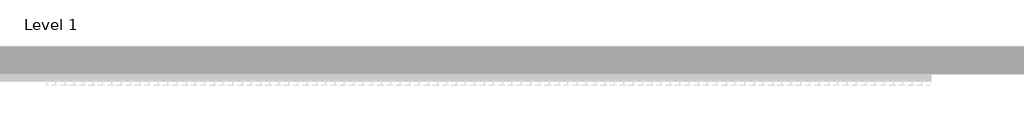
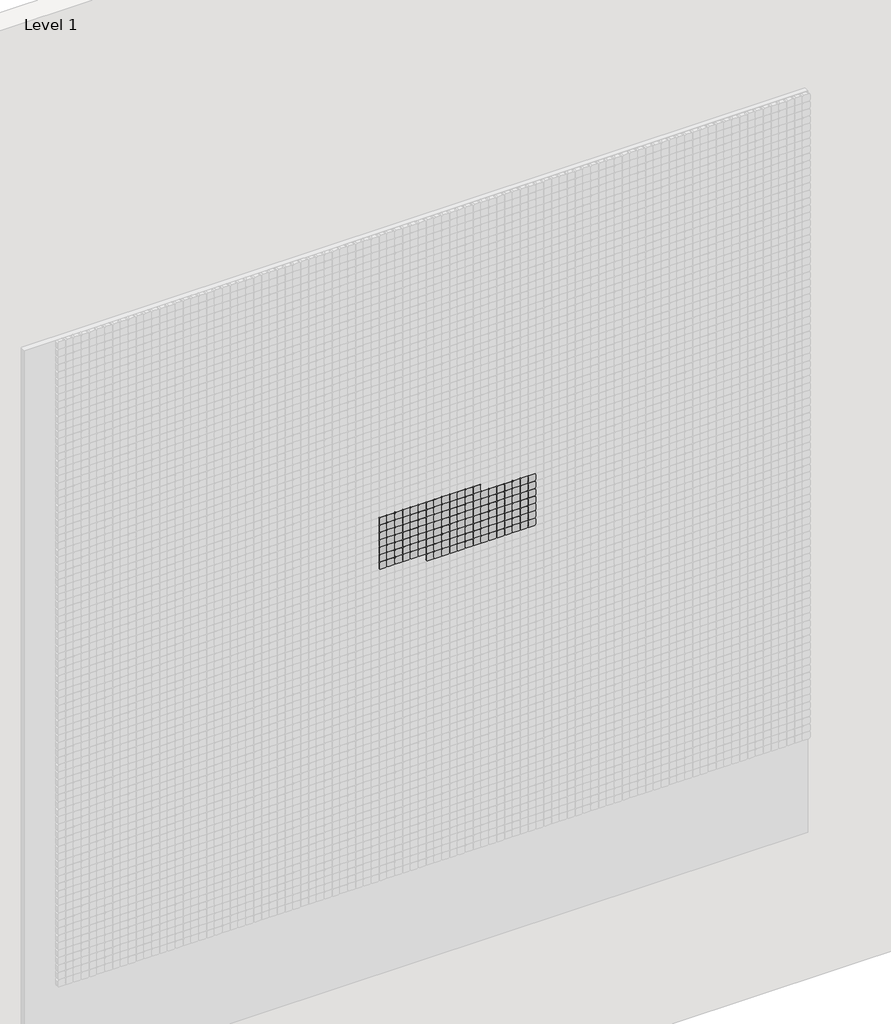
# One storey, part 40 of 71: 147 proxies.
"""IFC4 building model written with IfcOpenShell, lengths in millimetres."""

from ifc_helpers import new_model, si_unit, origin, place, context, project, spatial, transform, mapped, element, save
from components import generic_models_afde289c

model = new_model("IFC4")

# Units and contexts
model_context = context("Model", 3, world=origin())
ifc_project = project(units=[si_unit("LENGTHUNIT", "METRE", prefix="MILLI")], contexts=[model_context])

# Site, building, storey
site = spatial("IfcSite", under=ifc_project)
building = spatial("IfcBuilding", under=site)
storey = spatial("IfcBuildingStorey", under=building, Name="Level 1", Elevation=0.0)

# Proxies
placement = place(None, origin())
generic_models_shape = generic_models_afde289c(model_context)
element("IfcBuildingElementProxy", 1, Name="Pixel_M : Pixel_M", ObjectType="Pixel_M : Pixel_M", at=placement, inside=storey, context=model_context, shape_type="MappedRepresentation", body=[
    mapped(generic_models_shape, transform((7612.4280941, -75.0, 4066.3566215), x_axis=(1.0, 0.0, 0.0), y_axis=(0.0, 0.0, 1.0), z_axis=(0.0, -1.0, 0.0))),
])
element("IfcBuildingElementProxy", 2, Name="Pixel_M : Pixel_M", ObjectType="Pixel_M : Pixel_M", at=placement, inside=storey, context=model_context, shape_type="MappedRepresentation", body=[
    mapped(generic_models_shape, transform((7562.4280941, -75.0, 4066.3566215), x_axis=(1.0, 0.0, 0.0), y_axis=(0.0, 0.0, 1.0), z_axis=(0.0, -1.0, 0.0))),
])
element("IfcBuildingElementProxy", 3, Name="Pixel_M : Pixel_M", ObjectType="Pixel_M : Pixel_M", at=placement, inside=storey, context=model_context, shape_type="MappedRepresentation", body=[
    mapped(generic_models_shape, transform((7512.4280941, -75.0, 4066.3566215), x_axis=(1.0, 0.0, 0.0), y_axis=(0.0, 0.0, 1.0), z_axis=(0.0, -1.0, 0.0))),
])
element("IfcBuildingElementProxy", 4, Name="Pixel_M : Pixel_M", ObjectType="Pixel_M : Pixel_M", at=placement, inside=storey, context=model_context, shape_type="MappedRepresentation", body=[
    mapped(generic_models_shape, transform((7462.4280941, -75.0, 4066.3566215), x_axis=(1.0, 0.0, 0.0), y_axis=(0.0, 0.0, 1.0), z_axis=(0.0, -1.0, 0.0))),
])
element("IfcBuildingElementProxy", 5, Name="Pixel_M : Pixel_M", ObjectType="Pixel_M : Pixel_M", at=placement, inside=storey, context=model_context, shape_type="MappedRepresentation", body=[
    mapped(generic_models_shape, transform((7412.4280941, -75.0, 4066.3566215), x_axis=(1.0, 0.0, 0.0), y_axis=(0.0, 0.0, 1.0), z_axis=(0.0, -1.0, 0.0))),
])
element("IfcBuildingElementProxy", 6, Name="Pixel_M : Pixel_M", ObjectType="Pixel_M : Pixel_M", at=placement, inside=storey, context=model_context, shape_type="MappedRepresentation", body=[
    mapped(generic_models_shape, transform((7362.4280941, -75.0, 4066.3566215), x_axis=(1.0, 0.0, 0.0), y_axis=(0.0, 0.0, 1.0), z_axis=(0.0, -1.0, 0.0))),
])
element("IfcBuildingElementProxy", 7, Name="Pixel_M : Pixel_M", ObjectType="Pixel_M : Pixel_M", at=placement, inside=storey, context=model_context, shape_type="MappedRepresentation", body=[
    mapped(generic_models_shape, transform((7312.4280941, -75.0, 4066.3566215), x_axis=(1.0, 0.0, 0.0), y_axis=(0.0, 0.0, 1.0), z_axis=(0.0, -1.0, 0.0))),
])
element("IfcBuildingElementProxy", 8, Name="Pixel_M : Pixel_M", ObjectType="Pixel_M : Pixel_M", at=placement, inside=storey, context=model_context, shape_type="MappedRepresentation", body=[
    mapped(generic_models_shape, transform((7262.4280941, -75.0, 4066.3566215), x_axis=(1.0, 0.0, 0.0), y_axis=(0.0, 0.0, 1.0), z_axis=(0.0, -1.0, 0.0))),
])
element("IfcBuildingElementProxy", 9, Name="Pixel_M : Pixel_M", ObjectType="Pixel_M : Pixel_M", at=placement, inside=storey, context=model_context, shape_type="MappedRepresentation", body=[
    mapped(generic_models_shape, transform((7212.4280941, -75.0, 4066.3566215), x_axis=(1.0, 0.0, 0.0), y_axis=(0.0, 0.0, 1.0), z_axis=(0.0, -1.0, 0.0))),
])
element("IfcBuildingElementProxy", 10, Name="Pixel_M : Pixel_M", ObjectType="Pixel_M : Pixel_M", at=placement, inside=storey, context=model_context, shape_type="MappedRepresentation", body=[
    mapped(generic_models_shape, transform((7162.4280941, -75.0, 4066.3566215), x_axis=(1.0, 0.0, 0.0), y_axis=(0.0, 0.0, 1.0), z_axis=(0.0, -1.0, 0.0))),
])
element("IfcBuildingElementProxy", 11, Name="Pixel_M : Pixel_M", ObjectType="Pixel_M : Pixel_M", at=placement, inside=storey, context=model_context, shape_type="MappedRepresentation", body=[
    mapped(generic_models_shape, transform((7112.4280941, -75.0, 4066.3566215), x_axis=(1.0, 0.0, 0.0), y_axis=(0.0, 0.0, 1.0), z_axis=(0.0, -1.0, 0.0))),
])
element("IfcBuildingElementProxy", 12, Name="Pixel_M : Pixel_M", ObjectType="Pixel_M : Pixel_M", at=placement, inside=storey, context=model_context, shape_type="MappedRepresentation", body=[
    mapped(generic_models_shape, transform((7062.4280941, -75.0, 4066.3566215), x_axis=(1.0, 0.0, 0.0), y_axis=(0.0, 0.0, 1.0), z_axis=(0.0, -1.0, 0.0))),
])
element("IfcBuildingElementProxy", 13, Name="Pixel_M : Pixel_M", ObjectType="Pixel_M : Pixel_M", at=placement, inside=storey, context=model_context, shape_type="MappedRepresentation", body=[
    mapped(generic_models_shape, transform((7012.4280941, -75.0, 4066.3566215), x_axis=(1.0, 0.0, 0.0), y_axis=(0.0, 0.0, 1.0), z_axis=(0.0, -1.0, 0.0))),
])
element("IfcBuildingElementProxy", 14, Name="Pixel_M : Pixel_M", ObjectType="Pixel_M : Pixel_M", at=placement, inside=storey, context=model_context, shape_type="MappedRepresentation", body=[
    mapped(generic_models_shape, transform((7962.4280941, -75.0, 4016.3566215), x_axis=(1.0, 0.0, 0.0), y_axis=(0.0, 0.0, 1.0), z_axis=(0.0, -1.0, 0.0))),
])
element("IfcBuildingElementProxy", 15, Name="Pixel_M : Pixel_M", ObjectType="Pixel_M : Pixel_M", at=placement, inside=storey, context=model_context, shape_type="MappedRepresentation", body=[
    mapped(generic_models_shape, transform((7912.4280941, -75.0, 4016.3566215), x_axis=(1.0, 0.0, 0.0), y_axis=(0.0, 0.0, 1.0), z_axis=(0.0, -1.0, 0.0))),
])
element("IfcBuildingElementProxy", 16, Name="Pixel_M : Pixel_M", ObjectType="Pixel_M : Pixel_M", at=placement, inside=storey, context=model_context, shape_type="MappedRepresentation", body=[
    mapped(generic_models_shape, transform((7862.4280941, -75.0, 4016.3566215), x_axis=(1.0, 0.0, 0.0), y_axis=(0.0, 0.0, 1.0), z_axis=(0.0, -1.0, 0.0))),
])
element("IfcBuildingElementProxy", 17, Name="Pixel_M : Pixel_M", ObjectType="Pixel_M : Pixel_M", at=placement, inside=storey, context=model_context, shape_type="MappedRepresentation", body=[
    mapped(generic_models_shape, transform((7812.4280941, -75.0, 4016.3566215), x_axis=(1.0, 0.0, 0.0), y_axis=(0.0, 0.0, 1.0), z_axis=(0.0, -1.0, 0.0))),
])
element("IfcBuildingElementProxy", 18, Name="Pixel_M : Pixel_M", ObjectType="Pixel_M : Pixel_M", at=placement, inside=storey, context=model_context, shape_type="MappedRepresentation", body=[
    mapped(generic_models_shape, transform((7762.4280941, -75.0, 4016.3566215), x_axis=(1.0, 0.0, 0.0), y_axis=(0.0, 0.0, 1.0), z_axis=(0.0, -1.0, 0.0))),
])
element("IfcBuildingElementProxy", 19, Name="Pixel_M : Pixel_M", ObjectType="Pixel_M : Pixel_M", at=placement, inside=storey, context=model_context, shape_type="MappedRepresentation", body=[
    mapped(generic_models_shape, transform((7712.4280941, -75.0, 4016.3566215), x_axis=(1.0, 0.0, 0.0), y_axis=(0.0, 0.0, 1.0), z_axis=(0.0, -1.0, 0.0))),
])
element("IfcBuildingElementProxy", 20, Name="Pixel_M : Pixel_M", ObjectType="Pixel_M : Pixel_M", at=placement, inside=storey, context=model_context, shape_type="MappedRepresentation", body=[
    mapped(generic_models_shape, transform((7662.4280941, -75.0, 4016.3566215), x_axis=(1.0, 0.0, 0.0), y_axis=(0.0, 0.0, 1.0), z_axis=(0.0, -1.0, 0.0))),
])
element("IfcBuildingElementProxy", 21, Name="Pixel_M : Pixel_M", ObjectType="Pixel_M : Pixel_M", at=placement, inside=storey, context=model_context, shape_type="MappedRepresentation", body=[
    mapped(generic_models_shape, transform((7612.4280941, -75.0, 4016.3566215), x_axis=(1.0, 0.0, 0.0), y_axis=(0.0, 0.0, 1.0), z_axis=(0.0, -1.0, 0.0))),
])
element("IfcBuildingElementProxy", 22, Name="Pixel_M : Pixel_M", ObjectType="Pixel_M : Pixel_M", at=placement, inside=storey, context=model_context, shape_type="MappedRepresentation", body=[
    mapped(generic_models_shape, transform((7562.4280941, -75.0, 4016.3566215), x_axis=(1.0, 0.0, 0.0), y_axis=(0.0, 0.0, 1.0), z_axis=(0.0, -1.0, 0.0))),
])
element("IfcBuildingElementProxy", 23, Name="Pixel_M : Pixel_M", ObjectType="Pixel_M : Pixel_M", at=placement, inside=storey, context=model_context, shape_type="MappedRepresentation", body=[
    mapped(generic_models_shape, transform((7512.4280941, -75.0, 4016.3566215), x_axis=(1.0, 0.0, 0.0), y_axis=(0.0, 0.0, 1.0), z_axis=(0.0, -1.0, 0.0))),
])
element("IfcBuildingElementProxy", 24, Name="Pixel_M : Pixel_M", ObjectType="Pixel_M : Pixel_M", at=placement, inside=storey, context=model_context, shape_type="MappedRepresentation", body=[
    mapped(generic_models_shape, transform((7462.4280941, -75.0, 4016.3566215), x_axis=(1.0, 0.0, 0.0), y_axis=(0.0, 0.0, 1.0), z_axis=(0.0, -1.0, 0.0))),
])
element("IfcBuildingElementProxy", 25, Name="Pixel_M : Pixel_M", ObjectType="Pixel_M : Pixel_M", at=placement, inside=storey, context=model_context, shape_type="MappedRepresentation", body=[
    mapped(generic_models_shape, transform((7412.4280941, -75.0, 4016.3566215), x_axis=(1.0, 0.0, 0.0), y_axis=(0.0, 0.0, 1.0), z_axis=(0.0, -1.0, 0.0))),
])
element("IfcBuildingElementProxy", 26, Name="Pixel_M : Pixel_M", ObjectType="Pixel_M : Pixel_M", at=placement, inside=storey, context=model_context, shape_type="MappedRepresentation", body=[
    mapped(generic_models_shape, transform((7362.4280941, -75.0, 4016.3566215), x_axis=(1.0, 0.0, 0.0), y_axis=(0.0, 0.0, 1.0), z_axis=(0.0, -1.0, 0.0))),
])
element("IfcBuildingElementProxy", 27, Name="Pixel_M : Pixel_M", ObjectType="Pixel_M : Pixel_M", at=placement, inside=storey, context=model_context, shape_type="MappedRepresentation", body=[
    mapped(generic_models_shape, transform((7312.4280941, -75.0, 4016.3566215), x_axis=(1.0, 0.0, 0.0), y_axis=(0.0, 0.0, 1.0), z_axis=(0.0, -1.0, 0.0))),
])
element("IfcBuildingElementProxy", 28, Name="Pixel_M : Pixel_M", ObjectType="Pixel_M : Pixel_M", at=placement, inside=storey, context=model_context, shape_type="MappedRepresentation", body=[
    mapped(generic_models_shape, transform((7262.4280941, -75.0, 4016.3566215), x_axis=(1.0, 0.0, 0.0), y_axis=(0.0, 0.0, 1.0), z_axis=(0.0, -1.0, 0.0))),
])
element("IfcBuildingElementProxy", 29, Name="Pixel_M : Pixel_M", ObjectType="Pixel_M : Pixel_M", at=placement, inside=storey, context=model_context, shape_type="MappedRepresentation", body=[
    mapped(generic_models_shape, transform((7212.4280941, -75.0, 4016.3566215), x_axis=(1.0, 0.0, 0.0), y_axis=(0.0, 0.0, 1.0), z_axis=(0.0, -1.0, 0.0))),
])
element("IfcBuildingElementProxy", 30, Name="Pixel_M : Pixel_M", ObjectType="Pixel_M : Pixel_M", at=placement, inside=storey, context=model_context, shape_type="MappedRepresentation", body=[
    mapped(generic_models_shape, transform((7162.4280941, -75.0, 4016.3566215), x_axis=(1.0, 0.0, 0.0), y_axis=(0.0, 0.0, 1.0), z_axis=(0.0, -1.0, 0.0))),
])
element("IfcBuildingElementProxy", 31, Name="Pixel_M : Pixel_M", ObjectType="Pixel_M : Pixel_M", at=placement, inside=storey, context=model_context, shape_type="MappedRepresentation", body=[
    mapped(generic_models_shape, transform((7112.4280941, -75.0, 4016.3566215), x_axis=(1.0, 0.0, 0.0), y_axis=(0.0, 0.0, 1.0), z_axis=(0.0, -1.0, 0.0))),
])
element("IfcBuildingElementProxy", 32, Name="Pixel_M : Pixel_M", ObjectType="Pixel_M : Pixel_M", at=placement, inside=storey, context=model_context, shape_type="MappedRepresentation", body=[
    mapped(generic_models_shape, transform((7062.4280941, -75.0, 4016.3566215), x_axis=(1.0, 0.0, 0.0), y_axis=(0.0, 0.0, 1.0), z_axis=(0.0, -1.0, 0.0))),
])
element("IfcBuildingElementProxy", 33, Name="Pixel_M : Pixel_M", ObjectType="Pixel_M : Pixel_M", at=placement, inside=storey, context=model_context, shape_type="MappedRepresentation", body=[
    mapped(generic_models_shape, transform((7012.4280941, -75.0, 4016.3566215), x_axis=(1.0, 0.0, 0.0), y_axis=(0.0, 0.0, 1.0), z_axis=(0.0, -1.0, 0.0))),
])
element("IfcBuildingElementProxy", 34, Name="Pixel_M : Pixel_M", ObjectType="Pixel_M : Pixel_M", at=placement, inside=storey, context=model_context, shape_type="MappedRepresentation", body=[
    mapped(generic_models_shape, transform((7962.4280941, -75.0, 3966.3566215), x_axis=(1.0, 0.0, 0.0), y_axis=(0.0, 0.0, 1.0), z_axis=(0.0, -1.0, 0.0))),
])
element("IfcBuildingElementProxy", 35, Name="Pixel_M : Pixel_M", ObjectType="Pixel_M : Pixel_M", at=placement, inside=storey, context=model_context, shape_type="MappedRepresentation", body=[
    mapped(generic_models_shape, transform((7912.4280941, -75.0, 3966.3566215), x_axis=(1.0, 0.0, 0.0), y_axis=(0.0, 0.0, 1.0), z_axis=(0.0, -1.0, 0.0))),
])
element("IfcBuildingElementProxy", 36, Name="Pixel_M : Pixel_M", ObjectType="Pixel_M : Pixel_M", at=placement, inside=storey, context=model_context, shape_type="MappedRepresentation", body=[
    mapped(generic_models_shape, transform((7862.4280941, -75.0, 3966.3566215), x_axis=(1.0, 0.0, 0.0), y_axis=(0.0, 0.0, 1.0), z_axis=(0.0, -1.0, 0.0))),
])
element("IfcBuildingElementProxy", 37, Name="Pixel_M : Pixel_M", ObjectType="Pixel_M : Pixel_M", at=placement, inside=storey, context=model_context, shape_type="MappedRepresentation", body=[
    mapped(generic_models_shape, transform((7812.4280941, -75.0, 3966.3566215), x_axis=(1.0, 0.0, 0.0), y_axis=(0.0, 0.0, 1.0), z_axis=(0.0, -1.0, 0.0))),
])
element("IfcBuildingElementProxy", 38, Name="Pixel_M : Pixel_M", ObjectType="Pixel_M : Pixel_M", at=placement, inside=storey, context=model_context, shape_type="MappedRepresentation", body=[
    mapped(generic_models_shape, transform((7762.4280941, -75.0, 3966.3566215), x_axis=(1.0, 0.0, 0.0), y_axis=(0.0, 0.0, 1.0), z_axis=(0.0, -1.0, 0.0))),
])
element("IfcBuildingElementProxy", 39, Name="Pixel_M : Pixel_M", ObjectType="Pixel_M : Pixel_M", at=placement, inside=storey, context=model_context, shape_type="MappedRepresentation", body=[
    mapped(generic_models_shape, transform((7712.4280941, -75.0, 3966.3566215), x_axis=(1.0, 0.0, 0.0), y_axis=(0.0, 0.0, 1.0), z_axis=(0.0, -1.0, 0.0))),
])
element("IfcBuildingElementProxy", 40, Name="Pixel_M : Pixel_M", ObjectType="Pixel_M : Pixel_M", at=placement, inside=storey, context=model_context, shape_type="MappedRepresentation", body=[
    mapped(generic_models_shape, transform((7662.4280941, -75.0, 3966.3566215), x_axis=(1.0, 0.0, 0.0), y_axis=(0.0, 0.0, 1.0), z_axis=(0.0, -1.0, 0.0))),
])
element("IfcBuildingElementProxy", 41, Name="Pixel_M : Pixel_M", ObjectType="Pixel_M : Pixel_M", at=placement, inside=storey, context=model_context, shape_type="MappedRepresentation", body=[
    mapped(generic_models_shape, transform((7612.4280941, -75.0, 3966.3566215), x_axis=(1.0, 0.0, 0.0), y_axis=(0.0, 0.0, 1.0), z_axis=(0.0, -1.0, 0.0))),
])
element("IfcBuildingElementProxy", 42, Name="Pixel_M : Pixel_M", ObjectType="Pixel_M : Pixel_M", at=placement, inside=storey, context=model_context, shape_type="MappedRepresentation", body=[
    mapped(generic_models_shape, transform((7562.4280941, -75.0, 3966.3566215), x_axis=(1.0, 0.0, 0.0), y_axis=(0.0, 0.0, 1.0), z_axis=(0.0, -1.0, 0.0))),
])
element("IfcBuildingElementProxy", 43, Name="Pixel_M : Pixel_M", ObjectType="Pixel_M : Pixel_M", at=placement, inside=storey, context=model_context, shape_type="MappedRepresentation", body=[
    mapped(generic_models_shape, transform((7512.4280941, -75.0, 3966.3566215), x_axis=(1.0, 0.0, 0.0), y_axis=(0.0, 0.0, 1.0), z_axis=(0.0, -1.0, 0.0))),
])
element("IfcBuildingElementProxy", 44, Name="Pixel_M : Pixel_M", ObjectType="Pixel_M : Pixel_M", at=placement, inside=storey, context=model_context, shape_type="MappedRepresentation", body=[
    mapped(generic_models_shape, transform((7462.4280941, -75.0, 3966.3566215), x_axis=(1.0, 0.0, 0.0), y_axis=(0.0, 0.0, 1.0), z_axis=(0.0, -1.0, 0.0))),
])
element("IfcBuildingElementProxy", 45, Name="Pixel_M : Pixel_M", ObjectType="Pixel_M : Pixel_M", at=placement, inside=storey, context=model_context, shape_type="MappedRepresentation", body=[
    mapped(generic_models_shape, transform((7412.4280941, -75.0, 3966.3566215), x_axis=(1.0, 0.0, 0.0), y_axis=(0.0, 0.0, 1.0), z_axis=(0.0, -1.0, 0.0))),
])
element("IfcBuildingElementProxy", 46, Name="Pixel_M : Pixel_M", ObjectType="Pixel_M : Pixel_M", at=placement, inside=storey, context=model_context, shape_type="MappedRepresentation", body=[
    mapped(generic_models_shape, transform((7362.4280941, -75.0, 3966.3566215), x_axis=(1.0, 0.0, 0.0), y_axis=(0.0, 0.0, 1.0), z_axis=(0.0, -1.0, 0.0))),
])
element("IfcBuildingElementProxy", 47, Name="Pixel_M : Pixel_M", ObjectType="Pixel_M : Pixel_M", at=placement, inside=storey, context=model_context, shape_type="MappedRepresentation", body=[
    mapped(generic_models_shape, transform((7312.4280941, -75.0, 3966.3566215), x_axis=(1.0, 0.0, 0.0), y_axis=(0.0, 0.0, 1.0), z_axis=(0.0, -1.0, 0.0))),
])
element("IfcBuildingElementProxy", 48, Name="Pixel_M : Pixel_M", ObjectType="Pixel_M : Pixel_M", at=placement, inside=storey, context=model_context, shape_type="MappedRepresentation", body=[
    mapped(generic_models_shape, transform((7262.4280941, -75.0, 3966.3566215), x_axis=(1.0, 0.0, 0.0), y_axis=(0.0, 0.0, 1.0), z_axis=(0.0, -1.0, 0.0))),
])
element("IfcBuildingElementProxy", 49, Name="Pixel_M : Pixel_M", ObjectType="Pixel_M : Pixel_M", at=placement, inside=storey, context=model_context, shape_type="MappedRepresentation", body=[
    mapped(generic_models_shape, transform((7212.4280941, -75.0, 3966.3566215), x_axis=(1.0, 0.0, 0.0), y_axis=(0.0, 0.0, 1.0), z_axis=(0.0, -1.0, 0.0))),
])
element("IfcBuildingElementProxy", 50, Name="Pixel_M : Pixel_M", ObjectType="Pixel_M : Pixel_M", at=placement, inside=storey, context=model_context, shape_type="MappedRepresentation", body=[
    mapped(generic_models_shape, transform((7162.4280941, -75.0, 3966.3566215), x_axis=(1.0, 0.0, 0.0), y_axis=(0.0, 0.0, 1.0), z_axis=(0.0, -1.0, 0.0))),
])
element("IfcBuildingElementProxy", 51, Name="Pixel_M : Pixel_M", ObjectType="Pixel_M : Pixel_M", at=placement, inside=storey, context=model_context, shape_type="MappedRepresentation", body=[
    mapped(generic_models_shape, transform((7112.4280941, -75.0, 3966.3566215), x_axis=(1.0, 0.0, 0.0), y_axis=(0.0, 0.0, 1.0), z_axis=(0.0, -1.0, 0.0))),
])
element("IfcBuildingElementProxy", 52, Name="Pixel_M : Pixel_M", ObjectType="Pixel_M : Pixel_M", at=placement, inside=storey, context=model_context, shape_type="MappedRepresentation", body=[
    mapped(generic_models_shape, transform((7062.4280941, -75.0, 3966.3566215), x_axis=(1.0, 0.0, 0.0), y_axis=(0.0, 0.0, 1.0), z_axis=(0.0, -1.0, 0.0))),
])
element("IfcBuildingElementProxy", 53, Name="Pixel_M : Pixel_M", ObjectType="Pixel_M : Pixel_M", at=placement, inside=storey, context=model_context, shape_type="MappedRepresentation", body=[
    mapped(generic_models_shape, transform((7012.4280941, -75.0, 3966.3566215), x_axis=(1.0, 0.0, 0.0), y_axis=(0.0, 0.0, 1.0), z_axis=(0.0, -1.0, 0.0))),
])
element("IfcBuildingElementProxy", 54, Name="Pixel_M : Pixel_M", ObjectType="Pixel_M : Pixel_M", at=placement, inside=storey, context=model_context, shape_type="MappedRepresentation", body=[
    mapped(generic_models_shape, transform((7962.4280941, -75.0, 3916.3566215), x_axis=(1.0, 0.0, 0.0), y_axis=(0.0, 0.0, 1.0), z_axis=(0.0, -1.0, 0.0))),
])
element("IfcBuildingElementProxy", 55, Name="Pixel_M : Pixel_M", ObjectType="Pixel_M : Pixel_M", at=placement, inside=storey, context=model_context, shape_type="MappedRepresentation", body=[
    mapped(generic_models_shape, transform((7912.4280941, -75.0, 3916.3566215), x_axis=(1.0, 0.0, 0.0), y_axis=(0.0, 0.0, 1.0), z_axis=(0.0, -1.0, 0.0))),
])
element("IfcBuildingElementProxy", 56, Name="Pixel_M : Pixel_M", ObjectType="Pixel_M : Pixel_M", at=placement, inside=storey, context=model_context, shape_type="MappedRepresentation", body=[
    mapped(generic_models_shape, transform((7862.4280941, -75.0, 3916.3566215), x_axis=(1.0, 0.0, 0.0), y_axis=(0.0, 0.0, 1.0), z_axis=(0.0, -1.0, 0.0))),
])
element("IfcBuildingElementProxy", 57, Name="Pixel_M : Pixel_M", ObjectType="Pixel_M : Pixel_M", at=placement, inside=storey, context=model_context, shape_type="MappedRepresentation", body=[
    mapped(generic_models_shape, transform((7812.4280941, -75.0, 3916.3566215), x_axis=(1.0, 0.0, 0.0), y_axis=(0.0, 0.0, 1.0), z_axis=(0.0, -1.0, 0.0))),
])
element("IfcBuildingElementProxy", 58, Name="Pixel_M : Pixel_M", ObjectType="Pixel_M : Pixel_M", at=placement, inside=storey, context=model_context, shape_type="MappedRepresentation", body=[
    mapped(generic_models_shape, transform((7762.4280941, -75.0, 3916.3566215), x_axis=(1.0, 0.0, 0.0), y_axis=(0.0, 0.0, 1.0), z_axis=(0.0, -1.0, 0.0))),
])
element("IfcBuildingElementProxy", 59, Name="Pixel_M : Pixel_M", ObjectType="Pixel_M : Pixel_M", at=placement, inside=storey, context=model_context, shape_type="MappedRepresentation", body=[
    mapped(generic_models_shape, transform((7712.4280941, -75.0, 3916.3566215), x_axis=(1.0, 0.0, 0.0), y_axis=(0.0, 0.0, 1.0), z_axis=(0.0, -1.0, 0.0))),
])
element("IfcBuildingElementProxy", 60, Name="Pixel_M : Pixel_M", ObjectType="Pixel_M : Pixel_M", at=placement, inside=storey, context=model_context, shape_type="MappedRepresentation", body=[
    mapped(generic_models_shape, transform((7662.4280941, -75.0, 3916.3566215), x_axis=(1.0, 0.0, 0.0), y_axis=(0.0, 0.0, 1.0), z_axis=(0.0, -1.0, 0.0))),
])
element("IfcBuildingElementProxy", 61, Name="Pixel_M : Pixel_M", ObjectType="Pixel_M : Pixel_M", at=placement, inside=storey, context=model_context, shape_type="MappedRepresentation", body=[
    mapped(generic_models_shape, transform((7612.4280941, -75.0, 3916.3566215), x_axis=(1.0, 0.0, 0.0), y_axis=(0.0, 0.0, 1.0), z_axis=(0.0, -1.0, 0.0))),
])
element("IfcBuildingElementProxy", 62, Name="Pixel_M : Pixel_M", ObjectType="Pixel_M : Pixel_M", at=placement, inside=storey, context=model_context, shape_type="MappedRepresentation", body=[
    mapped(generic_models_shape, transform((7562.4280941, -75.0, 3916.3566215), x_axis=(1.0, 0.0, 0.0), y_axis=(0.0, 0.0, 1.0), z_axis=(0.0, -1.0, 0.0))),
])
element("IfcBuildingElementProxy", 63, Name="Pixel_M : Pixel_M", ObjectType="Pixel_M : Pixel_M", at=placement, inside=storey, context=model_context, shape_type="MappedRepresentation", body=[
    mapped(generic_models_shape, transform((7512.4280941, -75.0, 3916.3566215), x_axis=(1.0, 0.0, 0.0), y_axis=(0.0, 0.0, 1.0), z_axis=(0.0, -1.0, 0.0))),
])
element("IfcBuildingElementProxy", 64, Name="Pixel_M : Pixel_M", ObjectType="Pixel_M : Pixel_M", at=placement, inside=storey, context=model_context, shape_type="MappedRepresentation", body=[
    mapped(generic_models_shape, transform((7462.4280941, -75.0, 3916.3566215), x_axis=(1.0, 0.0, 0.0), y_axis=(0.0, 0.0, 1.0), z_axis=(0.0, -1.0, 0.0))),
])
element("IfcBuildingElementProxy", 65, Name="Pixel_M : Pixel_M", ObjectType="Pixel_M : Pixel_M", at=placement, inside=storey, context=model_context, shape_type="MappedRepresentation", body=[
    mapped(generic_models_shape, transform((7412.4280941, -75.0, 3916.3566215), x_axis=(1.0, 0.0, 0.0), y_axis=(0.0, 0.0, 1.0), z_axis=(0.0, -1.0, 0.0))),
])
element("IfcBuildingElementProxy", 66, Name="Pixel_M : Pixel_M", ObjectType="Pixel_M : Pixel_M", at=placement, inside=storey, context=model_context, shape_type="MappedRepresentation", body=[
    mapped(generic_models_shape, transform((7362.4280941, -75.0, 3916.3566215), x_axis=(1.0, 0.0, 0.0), y_axis=(0.0, 0.0, 1.0), z_axis=(0.0, -1.0, 0.0))),
])
element("IfcBuildingElementProxy", 67, Name="Pixel_M : Pixel_M", ObjectType="Pixel_M : Pixel_M", at=placement, inside=storey, context=model_context, shape_type="MappedRepresentation", body=[
    mapped(generic_models_shape, transform((7312.4280941, -75.0, 3916.3566215), x_axis=(1.0, 0.0, 0.0), y_axis=(0.0, 0.0, 1.0), z_axis=(0.0, -1.0, 0.0))),
])
element("IfcBuildingElementProxy", 68, Name="Pixel_M : Pixel_M", ObjectType="Pixel_M : Pixel_M", at=placement, inside=storey, context=model_context, shape_type="MappedRepresentation", body=[
    mapped(generic_models_shape, transform((7262.4280941, -75.0, 3916.3566215), x_axis=(1.0, 0.0, 0.0), y_axis=(0.0, 0.0, 1.0), z_axis=(0.0, -1.0, 0.0))),
])
element("IfcBuildingElementProxy", 69, Name="Pixel_M : Pixel_M", ObjectType="Pixel_M : Pixel_M", at=placement, inside=storey, context=model_context, shape_type="MappedRepresentation", body=[
    mapped(generic_models_shape, transform((7212.4280941, -75.0, 3916.3566215), x_axis=(1.0, 0.0, 0.0), y_axis=(0.0, 0.0, 1.0), z_axis=(0.0, -1.0, 0.0))),
])
element("IfcBuildingElementProxy", 70, Name="Pixel_M : Pixel_M", ObjectType="Pixel_M : Pixel_M", at=placement, inside=storey, context=model_context, shape_type="MappedRepresentation", body=[
    mapped(generic_models_shape, transform((7162.4280941, -75.0, 3916.3566215), x_axis=(1.0, 0.0, 0.0), y_axis=(0.0, 0.0, 1.0), z_axis=(0.0, -1.0, 0.0))),
])
element("IfcBuildingElementProxy", 71, Name="Pixel_M : Pixel_M", ObjectType="Pixel_M : Pixel_M", at=placement, inside=storey, context=model_context, shape_type="MappedRepresentation", body=[
    mapped(generic_models_shape, transform((7112.4280941, -75.0, 3916.3566215), x_axis=(1.0, 0.0, 0.0), y_axis=(0.0, 0.0, 1.0), z_axis=(0.0, -1.0, 0.0))),
])
element("IfcBuildingElementProxy", 72, Name="Pixel_M : Pixel_M", ObjectType="Pixel_M : Pixel_M", at=placement, inside=storey, context=model_context, shape_type="MappedRepresentation", body=[
    mapped(generic_models_shape, transform((7062.4280941, -75.0, 3916.3566215), x_axis=(1.0, 0.0, 0.0), y_axis=(0.0, 0.0, 1.0), z_axis=(0.0, -1.0, 0.0))),
])
element("IfcBuildingElementProxy", 73, Name="Pixel_M : Pixel_M", ObjectType="Pixel_M : Pixel_M", at=placement, inside=storey, context=model_context, shape_type="MappedRepresentation", body=[
    mapped(generic_models_shape, transform((7012.4280941, -75.0, 3916.3566215), x_axis=(1.0, 0.0, 0.0), y_axis=(0.0, 0.0, 1.0), z_axis=(0.0, -1.0, 0.0))),
])
element("IfcBuildingElementProxy", 74, Name="Pixel_M : Pixel_M", ObjectType="Pixel_M : Pixel_M", at=placement, inside=storey, context=model_context, shape_type="MappedRepresentation", body=[
    mapped(generic_models_shape, transform((7962.4280941, -75.0, 3866.3566215), x_axis=(1.0, 0.0, 0.0), y_axis=(0.0, 0.0, 1.0), z_axis=(0.0, -1.0, 0.0))),
])
element("IfcBuildingElementProxy", 75, Name="Pixel_M : Pixel_M", ObjectType="Pixel_M : Pixel_M", at=placement, inside=storey, context=model_context, shape_type="MappedRepresentation", body=[
    mapped(generic_models_shape, transform((7912.4280941, -75.0, 3866.3566215), x_axis=(1.0, 0.0, 0.0), y_axis=(0.0, 0.0, 1.0), z_axis=(0.0, -1.0, 0.0))),
])
element("IfcBuildingElementProxy", 76, Name="Pixel_M : Pixel_M", ObjectType="Pixel_M : Pixel_M", at=placement, inside=storey, context=model_context, shape_type="MappedRepresentation", body=[
    mapped(generic_models_shape, transform((7862.4280941, -75.0, 3866.3566215), x_axis=(1.0, 0.0, 0.0), y_axis=(0.0, 0.0, 1.0), z_axis=(0.0, -1.0, 0.0))),
])
element("IfcBuildingElementProxy", 77, Name="Pixel_M : Pixel_M", ObjectType="Pixel_M : Pixel_M", at=placement, inside=storey, context=model_context, shape_type="MappedRepresentation", body=[
    mapped(generic_models_shape, transform((7812.4280941, -75.0, 3866.3566215), x_axis=(1.0, 0.0, 0.0), y_axis=(0.0, 0.0, 1.0), z_axis=(0.0, -1.0, 0.0))),
])
element("IfcBuildingElementProxy", 78, Name="Pixel_M : Pixel_M", ObjectType="Pixel_M : Pixel_M", at=placement, inside=storey, context=model_context, shape_type="MappedRepresentation", body=[
    mapped(generic_models_shape, transform((7762.4280941, -75.0, 3866.3566215), x_axis=(1.0, 0.0, 0.0), y_axis=(0.0, 0.0, 1.0), z_axis=(0.0, -1.0, 0.0))),
])
element("IfcBuildingElementProxy", 79, Name="Pixel_M : Pixel_M", ObjectType="Pixel_M : Pixel_M", at=placement, inside=storey, context=model_context, shape_type="MappedRepresentation", body=[
    mapped(generic_models_shape, transform((7712.4280941, -75.0, 3866.3566215), x_axis=(1.0, 0.0, 0.0), y_axis=(0.0, 0.0, 1.0), z_axis=(0.0, -1.0, 0.0))),
])
element("IfcBuildingElementProxy", 80, Name="Pixel_M : Pixel_M", ObjectType="Pixel_M : Pixel_M", at=placement, inside=storey, context=model_context, shape_type="MappedRepresentation", body=[
    mapped(generic_models_shape, transform((7662.4280941, -75.0, 3866.3566215), x_axis=(1.0, 0.0, 0.0), y_axis=(0.0, 0.0, 1.0), z_axis=(0.0, -1.0, 0.0))),
])
element("IfcBuildingElementProxy", 81, Name="Pixel_M : Pixel_M", ObjectType="Pixel_M : Pixel_M", at=placement, inside=storey, context=model_context, shape_type="MappedRepresentation", body=[
    mapped(generic_models_shape, transform((7612.4280941, -75.0, 3866.3566215), x_axis=(1.0, 0.0, 0.0), y_axis=(0.0, 0.0, 1.0), z_axis=(0.0, -1.0, 0.0))),
])
element("IfcBuildingElementProxy", 82, Name="Pixel_M : Pixel_M", ObjectType="Pixel_M : Pixel_M", at=placement, inside=storey, context=model_context, shape_type="MappedRepresentation", body=[
    mapped(generic_models_shape, transform((7562.4280941, -75.0, 3866.3566215), x_axis=(1.0, 0.0, 0.0), y_axis=(0.0, 0.0, 1.0), z_axis=(0.0, -1.0, 0.0))),
])
element("IfcBuildingElementProxy", 83, Name="Pixel_M : Pixel_M", ObjectType="Pixel_M : Pixel_M", at=placement, inside=storey, context=model_context, shape_type="MappedRepresentation", body=[
    mapped(generic_models_shape, transform((7512.4280941, -75.0, 3866.3566215), x_axis=(1.0, 0.0, 0.0), y_axis=(0.0, 0.0, 1.0), z_axis=(0.0, -1.0, 0.0))),
])
element("IfcBuildingElementProxy", 84, Name="Pixel_M : Pixel_M", ObjectType="Pixel_M : Pixel_M", at=placement, inside=storey, context=model_context, shape_type="MappedRepresentation", body=[
    mapped(generic_models_shape, transform((7462.4280941, -75.0, 3866.3566215), x_axis=(1.0, 0.0, 0.0), y_axis=(0.0, 0.0, 1.0), z_axis=(0.0, -1.0, 0.0))),
])
element("IfcBuildingElementProxy", 85, Name="Pixel_M : Pixel_M", ObjectType="Pixel_M : Pixel_M", at=placement, inside=storey, context=model_context, shape_type="MappedRepresentation", body=[
    mapped(generic_models_shape, transform((7412.4280941, -75.0, 3866.3566215), x_axis=(1.0, 0.0, 0.0), y_axis=(0.0, 0.0, 1.0), z_axis=(0.0, -1.0, 0.0))),
])
element("IfcBuildingElementProxy", 86, Name="Pixel_M : Pixel_M", ObjectType="Pixel_M : Pixel_M", at=placement, inside=storey, context=model_context, shape_type="MappedRepresentation", body=[
    mapped(generic_models_shape, transform((7362.4280941, -75.0, 3866.3566215), x_axis=(1.0, 0.0, 0.0), y_axis=(0.0, 0.0, 1.0), z_axis=(0.0, -1.0, 0.0))),
])
element("IfcBuildingElementProxy", 87, Name="Pixel_M : Pixel_M", ObjectType="Pixel_M : Pixel_M", at=placement, inside=storey, context=model_context, shape_type="MappedRepresentation", body=[
    mapped(generic_models_shape, transform((7312.4280941, -75.0, 3866.3566215), x_axis=(1.0, 0.0, 0.0), y_axis=(0.0, 0.0, 1.0), z_axis=(0.0, -1.0, 0.0))),
])
element("IfcBuildingElementProxy", 88, Name="Pixel_M : Pixel_M", ObjectType="Pixel_M : Pixel_M", at=placement, inside=storey, context=model_context, shape_type="MappedRepresentation", body=[
    mapped(generic_models_shape, transform((7262.4280941, -75.0, 3866.3566215), x_axis=(1.0, 0.0, 0.0), y_axis=(0.0, 0.0, 1.0), z_axis=(0.0, -1.0, 0.0))),
])
element("IfcBuildingElementProxy", 89, Name="Pixel_M : Pixel_M", ObjectType="Pixel_M : Pixel_M", at=placement, inside=storey, context=model_context, shape_type="MappedRepresentation", body=[
    mapped(generic_models_shape, transform((7212.4280941, -75.0, 3866.3566215), x_axis=(1.0, 0.0, 0.0), y_axis=(0.0, 0.0, 1.0), z_axis=(0.0, -1.0, 0.0))),
])
element("IfcBuildingElementProxy", 90, Name="Pixel_M : Pixel_M", ObjectType="Pixel_M : Pixel_M", at=placement, inside=storey, context=model_context, shape_type="MappedRepresentation", body=[
    mapped(generic_models_shape, transform((7162.4280941, -75.0, 3866.3566215), x_axis=(1.0, 0.0, 0.0), y_axis=(0.0, 0.0, 1.0), z_axis=(0.0, -1.0, 0.0))),
])
element("IfcBuildingElementProxy", 91, Name="Pixel_M : Pixel_M", ObjectType="Pixel_M : Pixel_M", at=placement, inside=storey, context=model_context, shape_type="MappedRepresentation", body=[
    mapped(generic_models_shape, transform((7112.4280941, -75.0, 3866.3566215), x_axis=(1.0, 0.0, 0.0), y_axis=(0.0, 0.0, 1.0), z_axis=(0.0, -1.0, 0.0))),
])
element("IfcBuildingElementProxy", 92, Name="Pixel_M : Pixel_M", ObjectType="Pixel_M : Pixel_M", at=placement, inside=storey, context=model_context, shape_type="MappedRepresentation", body=[
    mapped(generic_models_shape, transform((7062.4280941, -75.0, 3866.3566215), x_axis=(1.0, 0.0, 0.0), y_axis=(0.0, 0.0, 1.0), z_axis=(0.0, -1.0, 0.0))),
])
element("IfcBuildingElementProxy", 93, Name="Pixel_M : Pixel_M", ObjectType="Pixel_M : Pixel_M", at=placement, inside=storey, context=model_context, shape_type="MappedRepresentation", body=[
    mapped(generic_models_shape, transform((7012.4280941, -75.0, 3866.3566215), x_axis=(1.0, 0.0, 0.0), y_axis=(0.0, 0.0, 1.0), z_axis=(0.0, -1.0, 0.0))),
])
element("IfcBuildingElementProxy", 94, Name="Pixel_M : Pixel_M", ObjectType="Pixel_M : Pixel_M", at=placement, inside=storey, context=model_context, shape_type="MappedRepresentation", body=[
    mapped(generic_models_shape, transform((7962.4280941, -75.0, 3816.3566215), x_axis=(1.0, 0.0, 0.0), y_axis=(0.0, 0.0, 1.0), z_axis=(0.0, -1.0, 0.0))),
])
element("IfcBuildingElementProxy", 95, Name="Pixel_M : Pixel_M", ObjectType="Pixel_M : Pixel_M", at=placement, inside=storey, context=model_context, shape_type="MappedRepresentation", body=[
    mapped(generic_models_shape, transform((7912.4280941, -75.0, 3816.3566215), x_axis=(1.0, 0.0, 0.0), y_axis=(0.0, 0.0, 1.0), z_axis=(0.0, -1.0, 0.0))),
])
element("IfcBuildingElementProxy", 96, Name="Pixel_M : Pixel_M", ObjectType="Pixel_M : Pixel_M", at=placement, inside=storey, context=model_context, shape_type="MappedRepresentation", body=[
    mapped(generic_models_shape, transform((7862.4280941, -75.0, 3816.3566215), x_axis=(1.0, 0.0, 0.0), y_axis=(0.0, 0.0, 1.0), z_axis=(0.0, -1.0, 0.0))),
])
element("IfcBuildingElementProxy", 97, Name="Pixel_M : Pixel_M", ObjectType="Pixel_M : Pixel_M", at=placement, inside=storey, context=model_context, shape_type="MappedRepresentation", body=[
    mapped(generic_models_shape, transform((7812.4280941, -75.0, 3816.3566215), x_axis=(1.0, 0.0, 0.0), y_axis=(0.0, 0.0, 1.0), z_axis=(0.0, -1.0, 0.0))),
])
element("IfcBuildingElementProxy", 98, Name="Pixel_M : Pixel_M", ObjectType="Pixel_M : Pixel_M", at=placement, inside=storey, context=model_context, shape_type="MappedRepresentation", body=[
    mapped(generic_models_shape, transform((7762.4280941, -75.0, 3816.3566215), x_axis=(1.0, 0.0, 0.0), y_axis=(0.0, 0.0, 1.0), z_axis=(0.0, -1.0, 0.0))),
])
element("IfcBuildingElementProxy", 99, Name="Pixel_M : Pixel_M", ObjectType="Pixel_M : Pixel_M", at=placement, inside=storey, context=model_context, shape_type="MappedRepresentation", body=[
    mapped(generic_models_shape, transform((7712.4280941, -75.0, 3816.3566215), x_axis=(1.0, 0.0, 0.0), y_axis=(0.0, 0.0, 1.0), z_axis=(0.0, -1.0, 0.0))),
])
element("IfcBuildingElementProxy", 100, Name="Pixel_M : Pixel_M", ObjectType="Pixel_M : Pixel_M", at=placement, inside=storey, context=model_context, shape_type="MappedRepresentation", body=[
    mapped(generic_models_shape, transform((7662.4280941, -75.0, 3816.3566215), x_axis=(1.0, 0.0, 0.0), y_axis=(0.0, 0.0, 1.0), z_axis=(0.0, -1.0, 0.0))),
])
element("IfcBuildingElementProxy", 101, Name="Pixel_M : Pixel_M", ObjectType="Pixel_M : Pixel_M", at=placement, inside=storey, context=model_context, shape_type="MappedRepresentation", body=[
    mapped(generic_models_shape, transform((7612.4280941, -75.0, 3816.3566215), x_axis=(1.0, 0.0, 0.0), y_axis=(0.0, 0.0, 1.0), z_axis=(0.0, -1.0, 0.0))),
])
element("IfcBuildingElementProxy", 102, Name="Pixel_M : Pixel_M", ObjectType="Pixel_M : Pixel_M", at=placement, inside=storey, context=model_context, shape_type="MappedRepresentation", body=[
    mapped(generic_models_shape, transform((7562.4280941, -75.0, 3816.3566215), x_axis=(1.0, 0.0, 0.0), y_axis=(0.0, 0.0, 1.0), z_axis=(0.0, -1.0, 0.0))),
])
element("IfcBuildingElementProxy", 103, Name="Pixel_M : Pixel_M", ObjectType="Pixel_M : Pixel_M", at=placement, inside=storey, context=model_context, shape_type="MappedRepresentation", body=[
    mapped(generic_models_shape, transform((7512.4280941, -75.0, 3816.3566215), x_axis=(1.0, 0.0, 0.0), y_axis=(0.0, 0.0, 1.0), z_axis=(0.0, -1.0, 0.0))),
])
element("IfcBuildingElementProxy", 104, Name="Pixel_M : Pixel_M", ObjectType="Pixel_M : Pixel_M", at=placement, inside=storey, context=model_context, shape_type="MappedRepresentation", body=[
    mapped(generic_models_shape, transform((7462.4280941, -75.0, 3816.3566215), x_axis=(1.0, 0.0, 0.0), y_axis=(0.0, 0.0, 1.0), z_axis=(0.0, -1.0, 0.0))),
])
element("IfcBuildingElementProxy", 105, Name="Pixel_M : Pixel_M", ObjectType="Pixel_M : Pixel_M", at=placement, inside=storey, context=model_context, shape_type="MappedRepresentation", body=[
    mapped(generic_models_shape, transform((7412.4280941, -75.0, 3816.3566215), x_axis=(1.0, 0.0, 0.0), y_axis=(0.0, 0.0, 1.0), z_axis=(0.0, -1.0, 0.0))),
])
element("IfcBuildingElementProxy", 106, Name="Pixel_M : Pixel_M", ObjectType="Pixel_M : Pixel_M", at=placement, inside=storey, context=model_context, shape_type="MappedRepresentation", body=[
    mapped(generic_models_shape, transform((7362.4280941, -75.0, 3816.3566215), x_axis=(1.0, 0.0, 0.0), y_axis=(0.0, 0.0, 1.0), z_axis=(0.0, -1.0, 0.0))),
])
element("IfcBuildingElementProxy", 107, Name="Pixel_M : Pixel_M", ObjectType="Pixel_M : Pixel_M", at=placement, inside=storey, context=model_context, shape_type="MappedRepresentation", body=[
    mapped(generic_models_shape, transform((7312.4280941, -75.0, 3816.3566215), x_axis=(1.0, 0.0, 0.0), y_axis=(0.0, 0.0, 1.0), z_axis=(0.0, -1.0, 0.0))),
])
element("IfcBuildingElementProxy", 108, Name="Pixel_M : Pixel_M", ObjectType="Pixel_M : Pixel_M", at=placement, inside=storey, context=model_context, shape_type="MappedRepresentation", body=[
    mapped(generic_models_shape, transform((7262.4280941, -75.0, 3816.3566215), x_axis=(1.0, 0.0, 0.0), y_axis=(0.0, 0.0, 1.0), z_axis=(0.0, -1.0, 0.0))),
])
element("IfcBuildingElementProxy", 109, Name="Pixel_M : Pixel_M", ObjectType="Pixel_M : Pixel_M", at=placement, inside=storey, context=model_context, shape_type="MappedRepresentation", body=[
    mapped(generic_models_shape, transform((7212.4280941, -75.0, 3816.3566215), x_axis=(1.0, 0.0, 0.0), y_axis=(0.0, 0.0, 1.0), z_axis=(0.0, -1.0, 0.0))),
])
element("IfcBuildingElementProxy", 110, Name="Pixel_M : Pixel_M", ObjectType="Pixel_M : Pixel_M", at=placement, inside=storey, context=model_context, shape_type="MappedRepresentation", body=[
    mapped(generic_models_shape, transform((7162.4280941, -75.0, 3816.3566215), x_axis=(1.0, 0.0, 0.0), y_axis=(0.0, 0.0, 1.0), z_axis=(0.0, -1.0, 0.0))),
])
element("IfcBuildingElementProxy", 111, Name="Pixel_M : Pixel_M", ObjectType="Pixel_M : Pixel_M", at=placement, inside=storey, context=model_context, shape_type="MappedRepresentation", body=[
    mapped(generic_models_shape, transform((7112.4280941, -75.0, 3816.3566215), x_axis=(1.0, 0.0, 0.0), y_axis=(0.0, 0.0, 1.0), z_axis=(0.0, -1.0, 0.0))),
])
element("IfcBuildingElementProxy", 112, Name="Pixel_M : Pixel_M", ObjectType="Pixel_M : Pixel_M", at=placement, inside=storey, context=model_context, shape_type="MappedRepresentation", body=[
    mapped(generic_models_shape, transform((7062.4280941, -75.0, 3816.3566215), x_axis=(1.0, 0.0, 0.0), y_axis=(0.0, 0.0, 1.0), z_axis=(0.0, -1.0, 0.0))),
])
element("IfcBuildingElementProxy", 113, Name="Pixel_M : Pixel_M", ObjectType="Pixel_M : Pixel_M", at=placement, inside=storey, context=model_context, shape_type="MappedRepresentation", body=[
    mapped(generic_models_shape, transform((7012.4280941, -75.0, 3816.3566215), x_axis=(1.0, 0.0, 0.0), y_axis=(0.0, 0.0, 1.0), z_axis=(0.0, -1.0, 0.0))),
])
element("IfcBuildingElementProxy", 114, Name="Pixel_M : Pixel_M", ObjectType="Pixel_M : Pixel_M", at=placement, inside=storey, context=model_context, shape_type="MappedRepresentation", body=[
    mapped(generic_models_shape, transform((7962.4280941, -75.0, 3766.3566215), x_axis=(1.0, 0.0, 0.0), y_axis=(0.0, 0.0, 1.0), z_axis=(0.0, -1.0, 0.0))),
])
element("IfcBuildingElementProxy", 115, Name="Pixel_M : Pixel_M", ObjectType="Pixel_M : Pixel_M", at=placement, inside=storey, context=model_context, shape_type="MappedRepresentation", body=[
    mapped(generic_models_shape, transform((7912.4280941, -75.0, 3766.3566215), x_axis=(1.0, 0.0, 0.0), y_axis=(0.0, 0.0, 1.0), z_axis=(0.0, -1.0, 0.0))),
])
element("IfcBuildingElementProxy", 116, Name="Pixel_M : Pixel_M", ObjectType="Pixel_M : Pixel_M", at=placement, inside=storey, context=model_context, shape_type="MappedRepresentation", body=[
    mapped(generic_models_shape, transform((7862.4280941, -75.0, 3766.3566215), x_axis=(1.0, 0.0, 0.0), y_axis=(0.0, 0.0, 1.0), z_axis=(0.0, -1.0, 0.0))),
])
element("IfcBuildingElementProxy", 117, Name="Pixel_M : Pixel_M", ObjectType="Pixel_M : Pixel_M", at=placement, inside=storey, context=model_context, shape_type="MappedRepresentation", body=[
    mapped(generic_models_shape, transform((7812.4280941, -75.0, 3766.3566215), x_axis=(1.0, 0.0, 0.0), y_axis=(0.0, 0.0, 1.0), z_axis=(0.0, -1.0, 0.0))),
])
element("IfcBuildingElementProxy", 118, Name="Pixel_M : Pixel_M", ObjectType="Pixel_M : Pixel_M", at=placement, inside=storey, context=model_context, shape_type="MappedRepresentation", body=[
    mapped(generic_models_shape, transform((7762.4280941, -75.0, 3766.3566215), x_axis=(1.0, 0.0, 0.0), y_axis=(0.0, 0.0, 1.0), z_axis=(0.0, -1.0, 0.0))),
])
element("IfcBuildingElementProxy", 119, Name="Pixel_M : Pixel_M", ObjectType="Pixel_M : Pixel_M", at=placement, inside=storey, context=model_context, shape_type="MappedRepresentation", body=[
    mapped(generic_models_shape, transform((7712.4280941, -75.0, 3766.3566215), x_axis=(1.0, 0.0, 0.0), y_axis=(0.0, 0.0, 1.0), z_axis=(0.0, -1.0, 0.0))),
])
element("IfcBuildingElementProxy", 120, Name="Pixel_M : Pixel_M", ObjectType="Pixel_M : Pixel_M", at=placement, inside=storey, context=model_context, shape_type="MappedRepresentation", body=[
    mapped(generic_models_shape, transform((7662.4280941, -75.0, 3766.3566215), x_axis=(1.0, 0.0, 0.0), y_axis=(0.0, 0.0, 1.0), z_axis=(0.0, -1.0, 0.0))),
])
element("IfcBuildingElementProxy", 121, Name="Pixel_M : Pixel_M", ObjectType="Pixel_M : Pixel_M", at=placement, inside=storey, context=model_context, shape_type="MappedRepresentation", body=[
    mapped(generic_models_shape, transform((7612.4280941, -75.0, 3766.3566215), x_axis=(1.0, 0.0, 0.0), y_axis=(0.0, 0.0, 1.0), z_axis=(0.0, -1.0, 0.0))),
])
element("IfcBuildingElementProxy", 122, Name="Pixel_M : Pixel_M", ObjectType="Pixel_M : Pixel_M", at=placement, inside=storey, context=model_context, shape_type="MappedRepresentation", body=[
    mapped(generic_models_shape, transform((7562.4280941, -75.0, 3766.3566215), x_axis=(1.0, 0.0, 0.0), y_axis=(0.0, 0.0, 1.0), z_axis=(0.0, -1.0, 0.0))),
])
element("IfcBuildingElementProxy", 123, Name="Pixel_M : Pixel_M", ObjectType="Pixel_M : Pixel_M", at=placement, inside=storey, context=model_context, shape_type="MappedRepresentation", body=[
    mapped(generic_models_shape, transform((7512.4280941, -75.0, 3766.3566215), x_axis=(1.0, 0.0, 0.0), y_axis=(0.0, 0.0, 1.0), z_axis=(0.0, -1.0, 0.0))),
])
element("IfcBuildingElementProxy", 124, Name="Pixel_M : Pixel_M", ObjectType="Pixel_M : Pixel_M", at=placement, inside=storey, context=model_context, shape_type="MappedRepresentation", body=[
    mapped(generic_models_shape, transform((7462.4280941, -75.0, 3766.3566215), x_axis=(1.0, 0.0, 0.0), y_axis=(0.0, 0.0, 1.0), z_axis=(0.0, -1.0, 0.0))),
])
element("IfcBuildingElementProxy", 125, Name="Pixel_M : Pixel_M", ObjectType="Pixel_M : Pixel_M", at=placement, inside=storey, context=model_context, shape_type="MappedRepresentation", body=[
    mapped(generic_models_shape, transform((7412.4280941, -75.0, 3766.3566215), x_axis=(1.0, 0.0, 0.0), y_axis=(0.0, 0.0, 1.0), z_axis=(0.0, -1.0, 0.0))),
])
element("IfcBuildingElementProxy", 126, Name="Pixel_M : Pixel_M", ObjectType="Pixel_M : Pixel_M", at=placement, inside=storey, context=model_context, shape_type="MappedRepresentation", body=[
    mapped(generic_models_shape, transform((7362.4280941, -75.0, 3766.3566215), x_axis=(1.0, 0.0, 0.0), y_axis=(0.0, 0.0, 1.0), z_axis=(0.0, -1.0, 0.0))),
])
element("IfcBuildingElementProxy", 127, Name="Pixel_M : Pixel_M", ObjectType="Pixel_M : Pixel_M", at=placement, inside=storey, context=model_context, shape_type="MappedRepresentation", body=[
    mapped(generic_models_shape, transform((7312.4280941, -75.0, 3766.3566215), x_axis=(1.0, 0.0, 0.0), y_axis=(0.0, 0.0, 1.0), z_axis=(0.0, -1.0, 0.0))),
])
element("IfcBuildingElementProxy", 128, Name="Pixel_M : Pixel_M", ObjectType="Pixel_M : Pixel_M", at=placement, inside=storey, context=model_context, shape_type="MappedRepresentation", body=[
    mapped(generic_models_shape, transform((7262.4280941, -75.0, 3766.3566215), x_axis=(1.0, 0.0, 0.0), y_axis=(0.0, 0.0, 1.0), z_axis=(0.0, -1.0, 0.0))),
])
element("IfcBuildingElementProxy", 129, Name="Pixel_M : Pixel_M", ObjectType="Pixel_M : Pixel_M", at=placement, inside=storey, context=model_context, shape_type="MappedRepresentation", body=[
    mapped(generic_models_shape, transform((7212.4280941, -75.0, 3766.3566215), x_axis=(1.0, 0.0, 0.0), y_axis=(0.0, 0.0, 1.0), z_axis=(0.0, -1.0, 0.0))),
])
element("IfcBuildingElementProxy", 130, Name="Pixel_M : Pixel_M", ObjectType="Pixel_M : Pixel_M", at=placement, inside=storey, context=model_context, shape_type="MappedRepresentation", body=[
    mapped(generic_models_shape, transform((7162.4280941, -75.0, 3766.3566215), x_axis=(1.0, 0.0, 0.0), y_axis=(0.0, 0.0, 1.0), z_axis=(0.0, -1.0, 0.0))),
])
element("IfcBuildingElementProxy", 131, Name="Pixel_M : Pixel_M", ObjectType="Pixel_M : Pixel_M", at=placement, inside=storey, context=model_context, shape_type="MappedRepresentation", body=[
    mapped(generic_models_shape, transform((7112.4280941, -75.0, 3766.3566215), x_axis=(1.0, 0.0, 0.0), y_axis=(0.0, 0.0, 1.0), z_axis=(0.0, -1.0, 0.0))),
])
element("IfcBuildingElementProxy", 132, Name="Pixel_M : Pixel_M", ObjectType="Pixel_M : Pixel_M", at=placement, inside=storey, context=model_context, shape_type="MappedRepresentation", body=[
    mapped(generic_models_shape, transform((7062.4280941, -75.0, 3766.3566215), x_axis=(1.0, 0.0, 0.0), y_axis=(0.0, 0.0, 1.0), z_axis=(0.0, -1.0, 0.0))),
])
element("IfcBuildingElementProxy", 133, Name="Pixel_M : Pixel_M", ObjectType="Pixel_M : Pixel_M", at=placement, inside=storey, context=model_context, shape_type="MappedRepresentation", body=[
    mapped(generic_models_shape, transform((7012.4280941, -75.0, 3766.3566215), x_axis=(1.0, 0.0, 0.0), y_axis=(0.0, 0.0, 1.0), z_axis=(0.0, -1.0, 0.0))),
])
element("IfcBuildingElementProxy", 134, Name="Pixel_M : Pixel_M", ObjectType="Pixel_M : Pixel_M", at=placement, inside=storey, context=model_context, shape_type="MappedRepresentation", body=[
    mapped(generic_models_shape, transform((7962.4280941, -75.0, 3716.3566215), x_axis=(1.0, 0.0, 0.0), y_axis=(0.0, 0.0, 1.0), z_axis=(0.0, -1.0, 0.0))),
])
element("IfcBuildingElementProxy", 135, Name="Pixel_M : Pixel_M", ObjectType="Pixel_M : Pixel_M", at=placement, inside=storey, context=model_context, shape_type="MappedRepresentation", body=[
    mapped(generic_models_shape, transform((7912.4280941, -75.0, 3716.3566215), x_axis=(1.0, 0.0, 0.0), y_axis=(0.0, 0.0, 1.0), z_axis=(0.0, -1.0, 0.0))),
])
element("IfcBuildingElementProxy", 136, Name="Pixel_M : Pixel_M", ObjectType="Pixel_M : Pixel_M", at=placement, inside=storey, context=model_context, shape_type="MappedRepresentation", body=[
    mapped(generic_models_shape, transform((7862.4280941, -75.0, 3716.3566215), x_axis=(1.0, 0.0, 0.0), y_axis=(0.0, 0.0, 1.0), z_axis=(0.0, -1.0, 0.0))),
])
element("IfcBuildingElementProxy", 137, Name="Pixel_M : Pixel_M", ObjectType="Pixel_M : Pixel_M", at=placement, inside=storey, context=model_context, shape_type="MappedRepresentation", body=[
    mapped(generic_models_shape, transform((7812.4280941, -75.0, 3716.3566215), x_axis=(1.0, 0.0, 0.0), y_axis=(0.0, 0.0, 1.0), z_axis=(0.0, -1.0, 0.0))),
])
element("IfcBuildingElementProxy", 138, Name="Pixel_M : Pixel_M", ObjectType="Pixel_M : Pixel_M", at=placement, inside=storey, context=model_context, shape_type="MappedRepresentation", body=[
    mapped(generic_models_shape, transform((7762.4280941, -75.0, 3716.3566215), x_axis=(1.0, 0.0, 0.0), y_axis=(0.0, 0.0, 1.0), z_axis=(0.0, -1.0, 0.0))),
])
element("IfcBuildingElementProxy", 139, Name="Pixel_M : Pixel_M", ObjectType="Pixel_M : Pixel_M", at=placement, inside=storey, context=model_context, shape_type="MappedRepresentation", body=[
    mapped(generic_models_shape, transform((7712.4280941, -75.0, 3716.3566215), x_axis=(1.0, 0.0, 0.0), y_axis=(0.0, 0.0, 1.0), z_axis=(0.0, -1.0, 0.0))),
])
element("IfcBuildingElementProxy", 140, Name="Pixel_M : Pixel_M", ObjectType="Pixel_M : Pixel_M", at=placement, inside=storey, context=model_context, shape_type="MappedRepresentation", body=[
    mapped(generic_models_shape, transform((7662.4280941, -75.0, 3716.3566215), x_axis=(1.0, 0.0, 0.0), y_axis=(0.0, 0.0, 1.0), z_axis=(0.0, -1.0, 0.0))),
])
element("IfcBuildingElementProxy", 141, Name="Pixel_M : Pixel_M", ObjectType="Pixel_M : Pixel_M", at=placement, inside=storey, context=model_context, shape_type="MappedRepresentation", body=[
    mapped(generic_models_shape, transform((7612.4280941, -75.0, 3716.3566215), x_axis=(1.0, 0.0, 0.0), y_axis=(0.0, 0.0, 1.0), z_axis=(0.0, -1.0, 0.0))),
])
element("IfcBuildingElementProxy", 142, Name="Pixel_M : Pixel_M", ObjectType="Pixel_M : Pixel_M", at=placement, inside=storey, context=model_context, shape_type="MappedRepresentation", body=[
    mapped(generic_models_shape, transform((7562.4280941, -75.0, 3716.3566215), x_axis=(1.0, 0.0, 0.0), y_axis=(0.0, 0.0, 1.0), z_axis=(0.0, -1.0, 0.0))),
])
element("IfcBuildingElementProxy", 143, Name="Pixel_M : Pixel_M", ObjectType="Pixel_M : Pixel_M", at=placement, inside=storey, context=model_context, shape_type="MappedRepresentation", body=[
    mapped(generic_models_shape, transform((7512.4280941, -75.0, 3716.3566215), x_axis=(1.0, 0.0, 0.0), y_axis=(0.0, 0.0, 1.0), z_axis=(0.0, -1.0, 0.0))),
])
element("IfcBuildingElementProxy", 144, Name="Pixel_M : Pixel_M", ObjectType="Pixel_M : Pixel_M", at=placement, inside=storey, context=model_context, shape_type="MappedRepresentation", body=[
    mapped(generic_models_shape, transform((7462.4280941, -75.0, 3716.3566215), x_axis=(1.0, 0.0, 0.0), y_axis=(0.0, 0.0, 1.0), z_axis=(0.0, -1.0, 0.0))),
])
element("IfcBuildingElementProxy", 145, Name="Pixel_M : Pixel_M", ObjectType="Pixel_M : Pixel_M", at=placement, inside=storey, context=model_context, shape_type="MappedRepresentation", body=[
    mapped(generic_models_shape, transform((7412.4280941, -75.0, 3716.3566215), x_axis=(1.0, 0.0, 0.0), y_axis=(0.0, 0.0, 1.0), z_axis=(0.0, -1.0, 0.0))),
])
element("IfcBuildingElementProxy", 146, Name="Pixel_M : Pixel_M", ObjectType="Pixel_M : Pixel_M", at=placement, inside=storey, context=model_context, shape_type="MappedRepresentation", body=[
    mapped(generic_models_shape, transform((7362.4280941, -75.0, 3716.3566215), x_axis=(1.0, 0.0, 0.0), y_axis=(0.0, 0.0, 1.0), z_axis=(0.0, -1.0, 0.0))),
])
element("IfcBuildingElementProxy", 147, Name="Pixel_M : Pixel_M", ObjectType="Pixel_M : Pixel_M", at=placement, inside=storey, context=model_context, shape_type="MappedRepresentation", body=[
    mapped(generic_models_shape, transform((7312.4280941, -75.0, 3716.3566215), x_axis=(1.0, 0.0, 0.0), y_axis=(0.0, 0.0, 1.0), z_axis=(0.0, -1.0, 0.0))),
])

save(model, "model.ifc")
